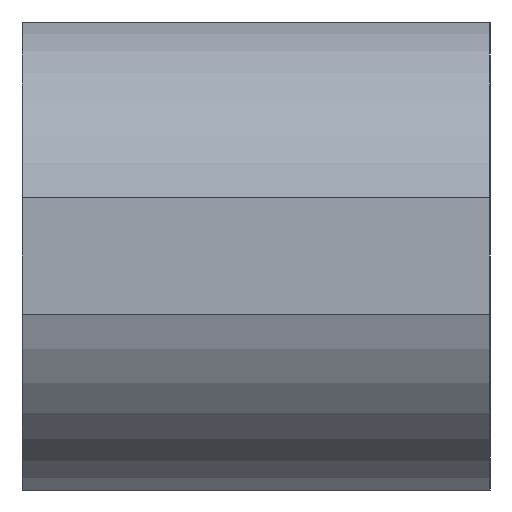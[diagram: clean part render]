
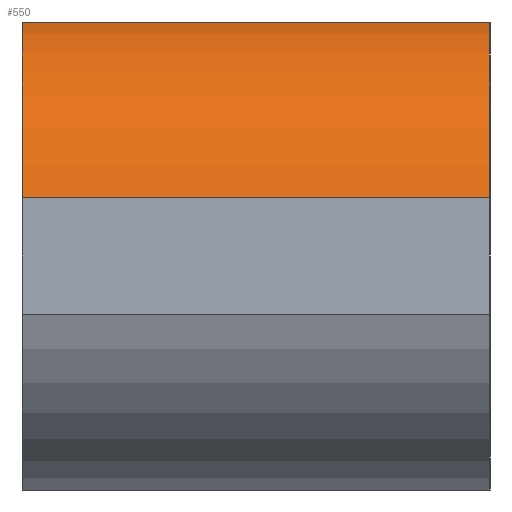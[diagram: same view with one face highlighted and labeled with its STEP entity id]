
A CAD part, left-side view. The second image highlights one B-rep face of the part: STEP entity #550.
In plain terms, the highlighted cylindrical face has radius 17 mm (diameter 34 mm), a partial arc.
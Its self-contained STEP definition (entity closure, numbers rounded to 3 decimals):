
#10 = CARTESIAN_POINT ( 'NONE',  ( -16.5, 16.5, 4.093 ) ) ;
#12 = EDGE_LOOP ( 'NONE', ( #116, #229, #474, #708 ) ) ;
#28 = CYLINDRICAL_SURFACE ( 'NONE', #52, 17. ) ;
#52 = AXIS2_PLACEMENT_3D ( 'NONE', #202, #190, #96 ) ;
#96 = DIRECTION ( 'NONE',  ( 0., 0., -1. ) ) ;
#106 = VERTEX_POINT ( 'NONE', #124 ) ;
#112 = CARTESIAN_POINT ( 'NONE',  ( -16.5, -16.5, 4.093 ) ) ;
#116 = ORIENTED_EDGE ( 'NONE', *, *, #239, .F. ) ;
#124 = CARTESIAN_POINT ( 'NONE',  ( -16.5, 16.5, 4.093 ) ) ;
#128 = CARTESIAN_POINT ( 'NONE',  ( -4.093, 16.5, 16.5 ) ) ;
#178 = LINE ( 'NONE', #10, #603 ) ;
#186 = AXIS2_PLACEMENT_3D ( 'NONE', #522, #303, #360 ) ;
#188 = DIRECTION ( 'NONE',  ( 0., 1., 0. ) ) ;
#190 = DIRECTION ( 'NONE',  ( 0., -1., 0. ) ) ;
#202 = CARTESIAN_POINT ( 'NONE',  ( 0., 16.5, 0. ) ) ;
#229 = ORIENTED_EDGE ( 'NONE', *, *, #484, .T. ) ;
#239 = EDGE_CURVE ( 'NONE', #106, #629, #583, .T. ) ;
#246 = CIRCLE ( 'NONE', #186, 17. ) ;
#258 = FACE_OUTER_BOUND ( 'NONE', #12, .T. ) ;
#272 = VERTEX_POINT ( 'NONE', #527 ) ;
#303 = DIRECTION ( 'NONE',  ( 0., 1., 0. ) ) ;
#323 = DIRECTION ( 'NONE',  ( 0., 1., 0. ) ) ;
#325 = EDGE_CURVE ( 'NONE', #272, #629, #485, .T. ) ;
#360 = DIRECTION ( 'NONE',  ( 0., 0., 1. ) ) ;
#381 = CARTESIAN_POINT ( 'NONE',  ( -4.093, 16.5, 16.5 ) ) ;
#442 = DIRECTION ( 'NONE',  ( 0., -1., 0. ) ) ;
#448 = VECTOR ( 'NONE', #323, 1000. ) ;
#474 = ORIENTED_EDGE ( 'NONE', *, *, #613, .T. ) ;
#484 = EDGE_CURVE ( 'NONE', #106, #508, #178, .T. ) ;
#485 = LINE ( 'NONE', #381, #448 ) ;
#508 = VERTEX_POINT ( 'NONE', #112 ) ;
#522 = CARTESIAN_POINT ( 'NONE',  ( 0., -16.5, 0. ) ) ;
#527 = CARTESIAN_POINT ( 'NONE',  ( -4.093, -16.5, 16.5 ) ) ;
#550 = ADVANCED_FACE ( 'NONE', ( #258 ), #28, .T. ) ;
#571 = DIRECTION ( 'NONE',  ( 0., 0., 1. ) ) ;
#583 = CIRCLE ( 'NONE', #601, 17. ) ;
#601 = AXIS2_PLACEMENT_3D ( 'NONE', #678, #188, #571 ) ;
#603 = VECTOR ( 'NONE', #442, 1000. ) ;
#613 = EDGE_CURVE ( 'NONE', #508, #272, #246, .T. ) ;
#629 = VERTEX_POINT ( 'NONE', #128 ) ;
#678 = CARTESIAN_POINT ( 'NONE',  ( 0., 16.5, 0. ) ) ;
#708 = ORIENTED_EDGE ( 'NONE', *, *, #325, .T. ) ;
